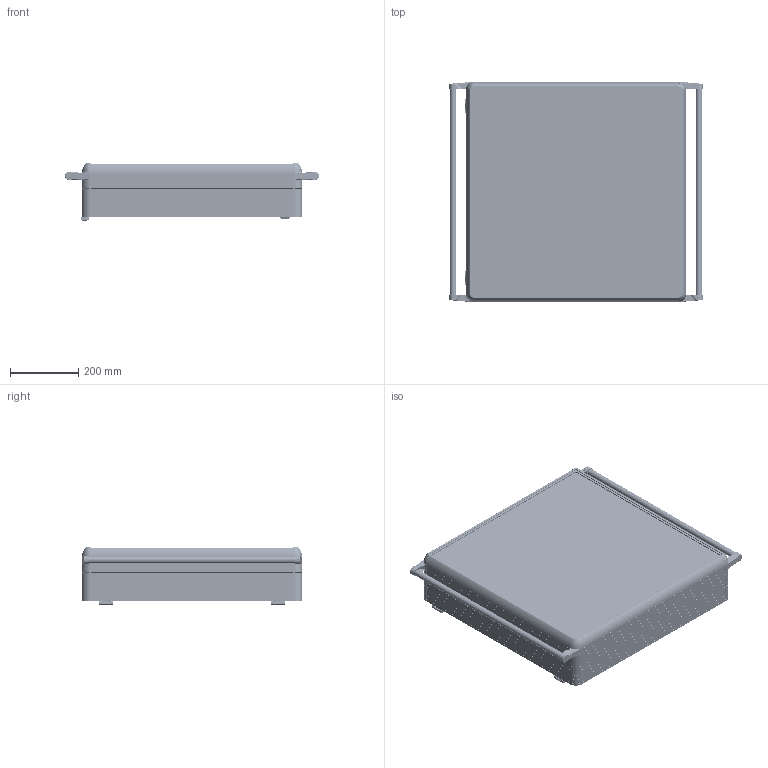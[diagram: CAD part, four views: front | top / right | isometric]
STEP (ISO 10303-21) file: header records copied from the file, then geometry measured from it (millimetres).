
FILE_DESCRIPTION (( 'STEP AP214' ), '1' );
FILE_NAME ('1500-0216.STEP', '2022-09-01T09:05:00', ( '' ), ( '' ), 'SwSTEP 2.0', 'SolidWorks 2022', '' );
FILE_SCHEMA (( 'AUTOMOTIVE_DESIGN' ));
Length unit declared in the file: millimetre
Products named in the file (7): ARKA_KAPAK_600X600; 1500-0216; 600X600; HPECO-150-001_595; ECO1500-0100(SOL); ECO1500-0100(SAÐ); boru_625
Assembly tree (12 placements, depth 2):
  1500-0216
    600X600
    ARKA_KAPAK_600X600
    HPECO-150-001_595  x4
    boru_625  x2
    ECO1500-0100(SOL)  x2
    ECO1500-0100(SAÐ)  x2
Bounding box: 744.62 x 647 x 169.15 mm (x, y, z)
Volume: 4302840.3 mm3; surface area: 3662547 mm2
Topology: 48 solids, 98 shells, 11341 faces, 29448 edges, 17878 vertices
Faces by surface type: plane 3665, cylinder 3168, bspline 3052, cone 798, torus 524, sphere 134
Entity records: 306956 total; most frequent: CARTESIAN_POINT 91810, ORIENTED_EDGE 33950, DIRECTION 27147, EDGE_CURVE 16975, VERTEX_POINT 10366, AXIS2_PLACEMENT_3D 10099, LINE 6949, VECTOR 6949
